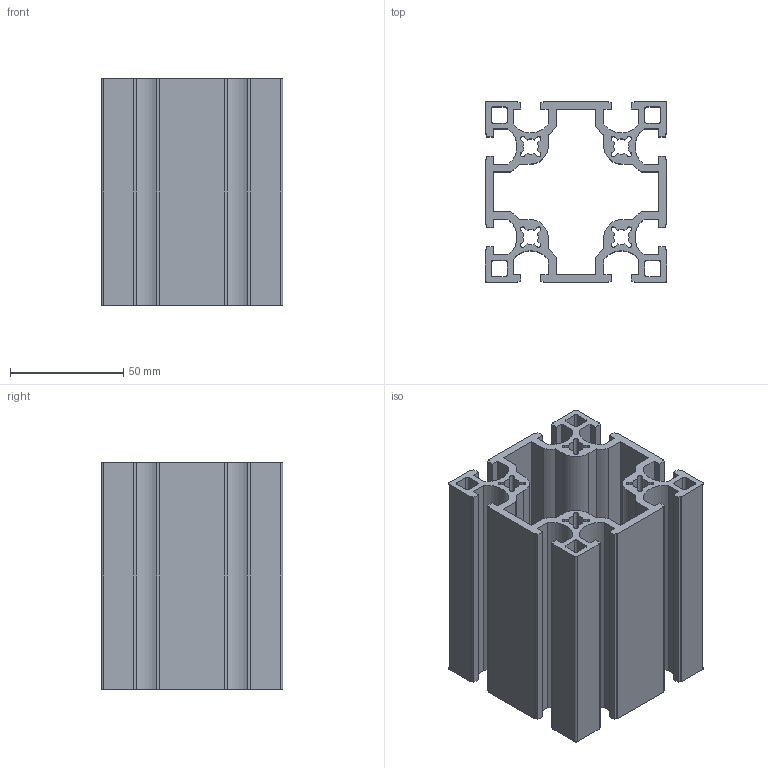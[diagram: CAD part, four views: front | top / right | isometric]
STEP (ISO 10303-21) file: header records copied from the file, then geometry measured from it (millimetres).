
FILE_DESCRIPTION(/* description */ (''),/* implementation_level */ '2;1');
FILE_NAME(/* name */ 'C:\Users\Owner\Documents\硯聰\Inv材料庫-3D新型錄\AM-(鋁擠)\8系列\AM8-8080_100L.stp',/* time_stamp */ '2019-03-08T11:42:57+08:00',/* author */ ('Owner'),/* organization */ (''),/* preprocessor_version */ 'ST-DEVELOPER v16.1',/* originating_system */ 'Autodesk Inventor 2016',/* authorisation */ '');
FILE_SCHEMA (('AUTOMOTIVE_DESIGN { 1 0 10303 214 3 1 1 }'));
Length unit declared in the file: millimetre
Products named in the file (1): AM8-8080_100L
Bounding box: 80 x 80 x 100 mm (x, y, z)
Volume: 180148.4 mm3; surface area: 117378.2 mm2
Topology: 1 solids, 1 shells, 234 faces, 696 edges, 464 vertices
Faces by surface type: plane 162, cylinder 72
Entity records: 7884 total; most frequent: CARTESIAN_POINT 1395, ORIENTED_EDGE 1392, DIRECTION 1310, EDGE_CURVE 696, LINE 552, VECTOR 552, VERTEX_POINT 464, AXIS2_PLACEMENT_3D 379
